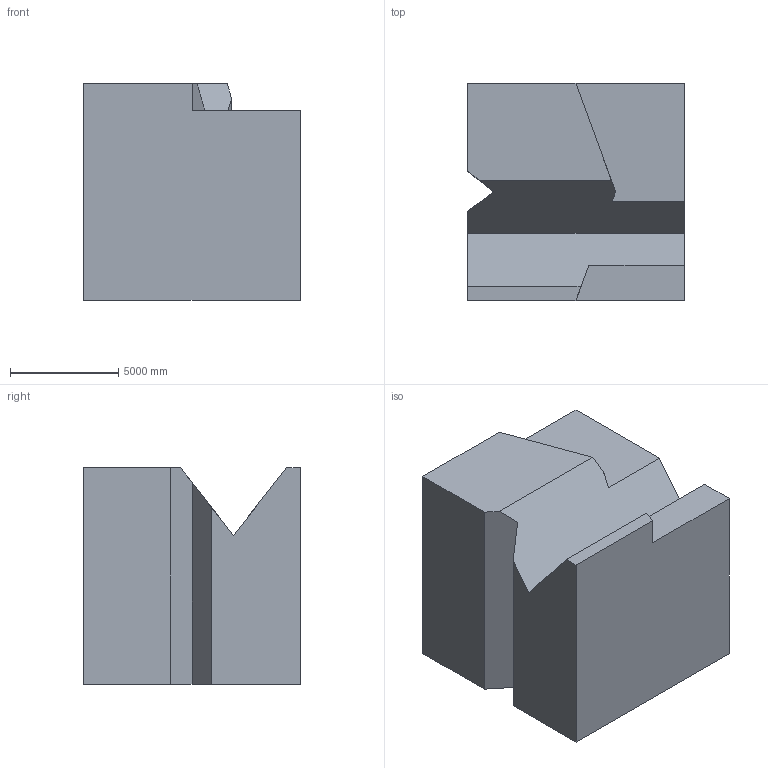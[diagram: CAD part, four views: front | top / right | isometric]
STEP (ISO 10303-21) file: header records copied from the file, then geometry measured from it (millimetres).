
FILE_DESCRIPTION (( 'STEP AP203' ), '1' );
FILE_NAME ('1312.STEP', '2022-08-18T13:42:18', ( 'user' ), ( '' ), 'SwSTEP 2.0', 'SolidWorks 2021', '' );
FILE_SCHEMA (( 'CONFIG_CONTROL_DESIGN' ));
Length unit declared in the file: centimetre
Products named in the file (1): 1312
Bounding box: 10000 x 10000 x 10000 mm (x, y, z)
Volume: 862515727556 mm3; surface area: 624097182.5 mm2
Topology: 1 solids, 1 shells, 22 faces, 60 edges, 40 vertices
Faces by surface type: plane 20, cylinder 2
Entity records: 765 total; most frequent: CARTESIAN_POINT 123, ORIENTED_EDGE 120, DIRECTION 110, EDGE_CURVE 60, VECTOR 56, LINE 56, VERTEX_POINT 40, AXIS2_PLACEMENT_3D 27
